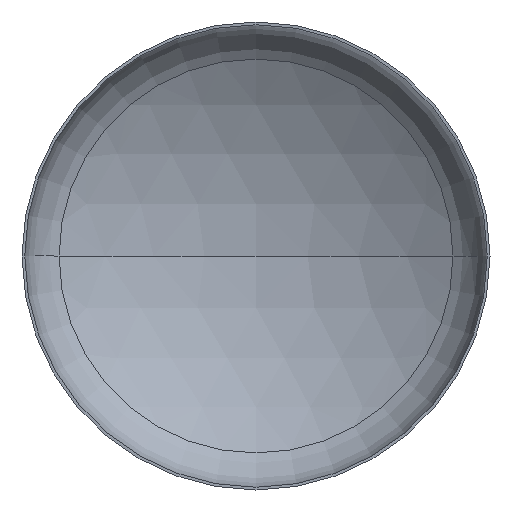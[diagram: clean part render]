
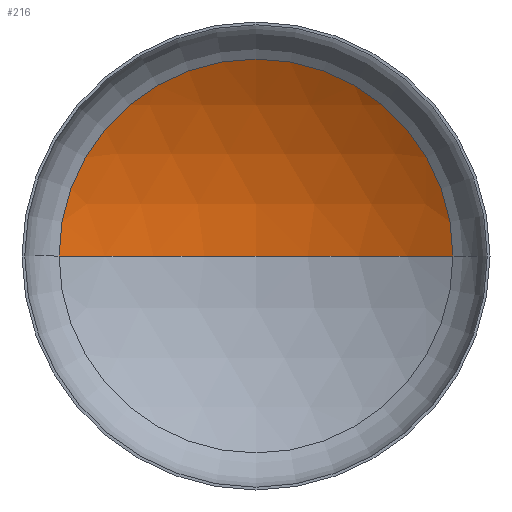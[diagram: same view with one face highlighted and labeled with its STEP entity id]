
A CAD part, front view. The second image highlights one B-rep face of the part: STEP entity #216.
In plain terms, the highlighted spherical face has radius 1760 mm.
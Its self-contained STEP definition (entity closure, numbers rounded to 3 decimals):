
#7 = EDGE_LOOP ( 'NONE', ( #58, #113, #71 ) ) ;
#14 = CARTESIAN_POINT ( 'NONE',  ( 0., -1167.639, 0. ) ) ;
#30 = AXIS2_PLACEMENT_3D ( 'NONE', #183, #174, #342 ) ;
#58 = ORIENTED_EDGE ( 'NONE', *, *, #377, .F. ) ;
#71 = ORIENTED_EDGE ( 'NONE', *, *, #340, .T. ) ;
#90 = AXIS2_PLACEMENT_3D ( 'NONE', #272, #306, #292 ) ;
#91 = VERTEX_POINT ( 'NONE', #268 ) ;
#94 = DIRECTION ( 'NONE',  ( 0., 0., -1. ) ) ;
#96 = CARTESIAN_POINT ( 'NONE',  ( 0., 592.361, 0. ) ) ;
#110 = DIRECTION ( 'NONE',  ( 1., 0., 0. ) ) ;
#112 = VERTEX_POINT ( 'NONE', #235 ) ;
#113 = ORIENTED_EDGE ( 'NONE', *, *, #384, .T. ) ;
#165 = FACE_OUTER_BOUND ( 'NONE', #7, .T. ) ;
#174 = DIRECTION ( 'NONE',  ( 0., -1., 0. ) ) ;
#183 = CARTESIAN_POINT ( 'NONE',  ( 0., 329.153, 0. ) ) ;
#216 = ADVANCED_FACE ( 'NONE', ( #165 ), #280, .F. ) ;
#235 = CARTESIAN_POINT ( 'NONE',  ( 925.859, 329.153, 0. ) ) ;
#252 = CIRCLE ( 'NONE', #357, 1760. ) ;
#268 = CARTESIAN_POINT ( 'NONE',  ( -925.859, 329.153, 0. ) ) ;
#272 = CARTESIAN_POINT ( 'NONE',  ( 0., -1167.639, 0. ) ) ;
#274 = CARTESIAN_POINT ( 'NONE',  ( 0., -1167.639, 0. ) ) ;
#278 = DIRECTION ( 'NONE',  ( 0., 0., 1. ) ) ;
#280 = SPHERICAL_SURFACE ( 'NONE', #90, 1760. ) ;
#292 = DIRECTION ( 'NONE',  ( -1., 0., 0. ) ) ;
#297 = DIRECTION ( 'NONE',  ( -1., 0., 0. ) ) ;
#306 = DIRECTION ( 'NONE',  ( 0., 0., -1. ) ) ;
#307 = CIRCLE ( 'NONE', #382, 1760. ) ;
#319 = CIRCLE ( 'NONE', #30, 925.859 ) ;
#340 = EDGE_CURVE ( 'NONE', #112, #91, #319, .T. ) ;
#342 = DIRECTION ( 'NONE',  ( 1., 0., 0. ) ) ;
#357 = AXIS2_PLACEMENT_3D ( 'NONE', #14, #278, #110 ) ;
#377 = EDGE_CURVE ( 'NONE', #378, #91, #252, .T. ) ;
#378 = VERTEX_POINT ( 'NONE', #96 ) ;
#382 = AXIS2_PLACEMENT_3D ( 'NONE', #274, #94, #297 ) ;
#384 = EDGE_CURVE ( 'NONE', #378, #112, #307, .T. ) ;
